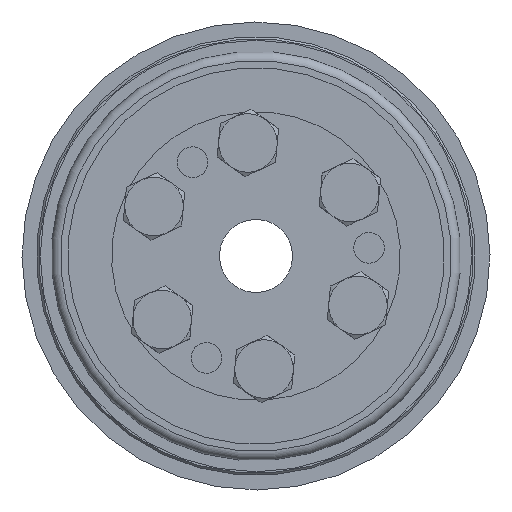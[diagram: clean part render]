
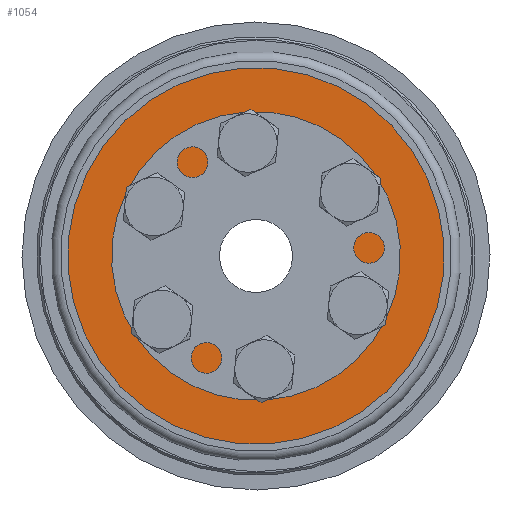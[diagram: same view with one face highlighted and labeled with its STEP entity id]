
A CAD part, left-side view. The second image highlights one B-rep face of the part: STEP entity #1054.
In plain terms, the highlighted planar face has unit normal (-1, 0, 0).
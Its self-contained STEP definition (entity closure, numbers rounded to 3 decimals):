
#1054 = ADVANCED_FACE( 'NONE', ( #2099, #2100, #2101, #2102, #2103, #2104, #2105, #2106 ), #2107, .F. );
#2099 = FACE_OUTER_BOUND( '', #3048, .T. );
#2100 = FACE_BOUND( '', #3049, .T. );
#2101 = FACE_BOUND( '', #3050, .T. );
#2102 = FACE_BOUND( '', #3051, .T. );
#2103 = FACE_BOUND( '', #3052, .T. );
#2104 = FACE_BOUND( '', #3053, .T. );
#2105 = FACE_BOUND( '', #3054, .T. );
#2106 = FACE_BOUND( '', #3055, .T. );
#2107 = PLANE( '', #3056 );
#3048 = EDGE_LOOP( '', ( #4503 ) );
#3049 = EDGE_LOOP( '', ( #4504 ) );
#3050 = EDGE_LOOP( '', ( #4505 ) );
#3051 = EDGE_LOOP( '', ( #4506 ) );
#3052 = EDGE_LOOP( '', ( #4507 ) );
#3053 = EDGE_LOOP( '', ( #4508 ) );
#3054 = EDGE_LOOP( '', ( #4509 ) );
#3055 = EDGE_LOOP( '', ( #4510 ) );
#3056 = AXIS2_PLACEMENT_3D( '', #4511, #4512, #4513 );
#4503 = ORIENTED_EDGE( '', *, *, #4988, .T. );
#4504 = ORIENTED_EDGE( '', *, *, #4946, .F. );
#4505 = ORIENTED_EDGE( '', *, *, #4568, .F. );
#4506 = ORIENTED_EDGE( '', *, *, #4950, .F. );
#4507 = ORIENTED_EDGE( '', *, *, #4666, .F. );
#4508 = ORIENTED_EDGE( '', *, *, #5020, .F. );
#4509 = ORIENTED_EDGE( '', *, *, #4894, .F. );
#4510 = ORIENTED_EDGE( '', *, *, #5031, .F. );
#4511 = CARTESIAN_POINT( '', ( 0., 12.2, 0. ) );
#4512 = DIRECTION( '', ( 1., 0., 0. ) );
#4513 = DIRECTION( '', ( 0., 1., 0. ) );
#4568 = EDGE_CURVE( 'NONE', #5120, #5120, #5121, .T. );
#4666 = EDGE_CURVE( 'NONE', #5281, #5281, #5282, .T. );
#4894 = EDGE_CURVE( 'NONE', #5631, #5631, #5632, .T. );
#4946 = EDGE_CURVE( 'NONE', #5699, #5699, #5700, .T. );
#4950 = EDGE_CURVE( 'NONE', #5703, #5703, #5704, .T. );
#4988 = EDGE_CURVE( 'NONE', #5748, #5748, #5749, .T. );
#5020 = EDGE_CURVE( 'NONE', #5785, #5785, #5786, .T. );
#5031 = EDGE_CURVE( 'NONE', #5797, #5797, #5798, .T. );
#5120 = VERTEX_POINT( '', #5890 );
#5121 = CIRCLE( '', #5891, 2.1 );
#5281 = VERTEX_POINT( '', #6097 );
#5282 = CIRCLE( '', #6098, 2.1 );
#5631 = VERTEX_POINT( '', #6815 );
#5632 = CIRCLE( '', #6816, 2.1 );
#5699 = VERTEX_POINT( '', #6892 );
#5700 = CIRCLE( '', #6893, 2.1 );
#5703 = VERTEX_POINT( '', #6896 );
#5704 = CIRCLE( '', #6897, 2.1 );
#5748 = VERTEX_POINT( '', #6943 );
#5749 = CIRCLE( '', #6944, 25.75 );
#5785 = VERTEX_POINT( '', #6981 );
#5786 = CIRCLE( '', #6982, 12.2 );
#5797 = VERTEX_POINT( '', #6993 );
#5798 = CIRCLE( '', #6994, 2.1 );
#5890 = CARTESIAN_POINT( '', ( 0., -7.75, -11.323 ) );
#5891 = AXIS2_PLACEMENT_3D( '', #7104, #7105, #7106 );
#6097 = CARTESIAN_POINT( '', ( 0., 15.5, 2.1 ) );
#6098 = AXIS2_PLACEMENT_3D( '', #7252, #7253, #7254 );
#6815 = CARTESIAN_POINT( '', ( 0., -15.5, 2.1 ) );
#6816 = AXIS2_PLACEMENT_3D( '', #7590, #7591, #7592 );
#6892 = CARTESIAN_POINT( '', ( 0., -7.75, 15.523 ) );
#6893 = AXIS2_PLACEMENT_3D( '', #7650, #7651, #7652 );
#6896 = CARTESIAN_POINT( '', ( 0., 7.75, -11.323 ) );
#6897 = AXIS2_PLACEMENT_3D( '', #7653, #7654, #7655 );
#6943 = CARTESIAN_POINT( '', ( 0., 0., 25.75 ) );
#6944 = AXIS2_PLACEMENT_3D( '', #7688, #7689, #7690 );
#6981 = CARTESIAN_POINT( '', ( 0., 0., 12.2 ) );
#6982 = AXIS2_PLACEMENT_3D( '', #7719, #7720, #7721 );
#6993 = CARTESIAN_POINT( '', ( 0., 7.75, 15.523 ) );
#6994 = AXIS2_PLACEMENT_3D( '', #7725, #7726, #7727 );
#7104 = CARTESIAN_POINT( '', ( 0., -7.75, -13.423 ) );
#7105 = DIRECTION( '', ( -1., 0., 0. ) );
#7106 = DIRECTION( '', ( 0., 0., 1. ) );
#7252 = CARTESIAN_POINT( '', ( 0., 15.5, 0. ) );
#7253 = DIRECTION( '', ( -1., 0., 0. ) );
#7254 = DIRECTION( '', ( 0., 0., 1. ) );
#7590 = CARTESIAN_POINT( '', ( 0., -15.5, 0. ) );
#7591 = DIRECTION( '', ( -1., 0., 0. ) );
#7592 = DIRECTION( '', ( 0., 0., 1. ) );
#7650 = CARTESIAN_POINT( '', ( 0., -7.75, 13.423 ) );
#7651 = DIRECTION( '', ( -1., 0., 0. ) );
#7652 = DIRECTION( '', ( 0., 0., 1. ) );
#7653 = CARTESIAN_POINT( '', ( 0., 7.75, -13.423 ) );
#7654 = DIRECTION( '', ( -1., 0., 0. ) );
#7655 = DIRECTION( '', ( 0., 0., 1. ) );
#7688 = CARTESIAN_POINT( '', ( 0., 0., 0. ) );
#7689 = DIRECTION( '', ( -1., 0., 0. ) );
#7690 = DIRECTION( '', ( 0., 0., 1. ) );
#7719 = CARTESIAN_POINT( '', ( 0., 0., 0. ) );
#7720 = DIRECTION( '', ( -1., 0., 0. ) );
#7721 = DIRECTION( '', ( 0., 0., 1. ) );
#7725 = CARTESIAN_POINT( '', ( 0., 7.75, 13.423 ) );
#7726 = DIRECTION( '', ( -1., 0., 0. ) );
#7727 = DIRECTION( '', ( 0., 0., 1. ) );
